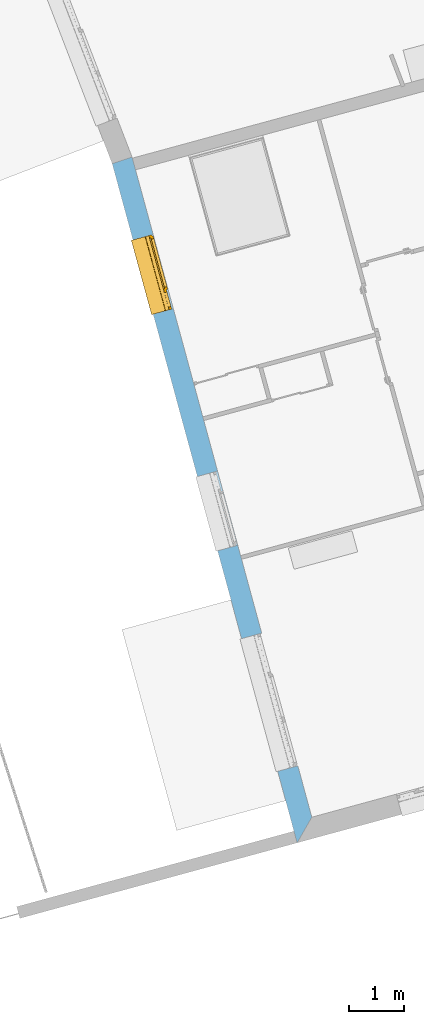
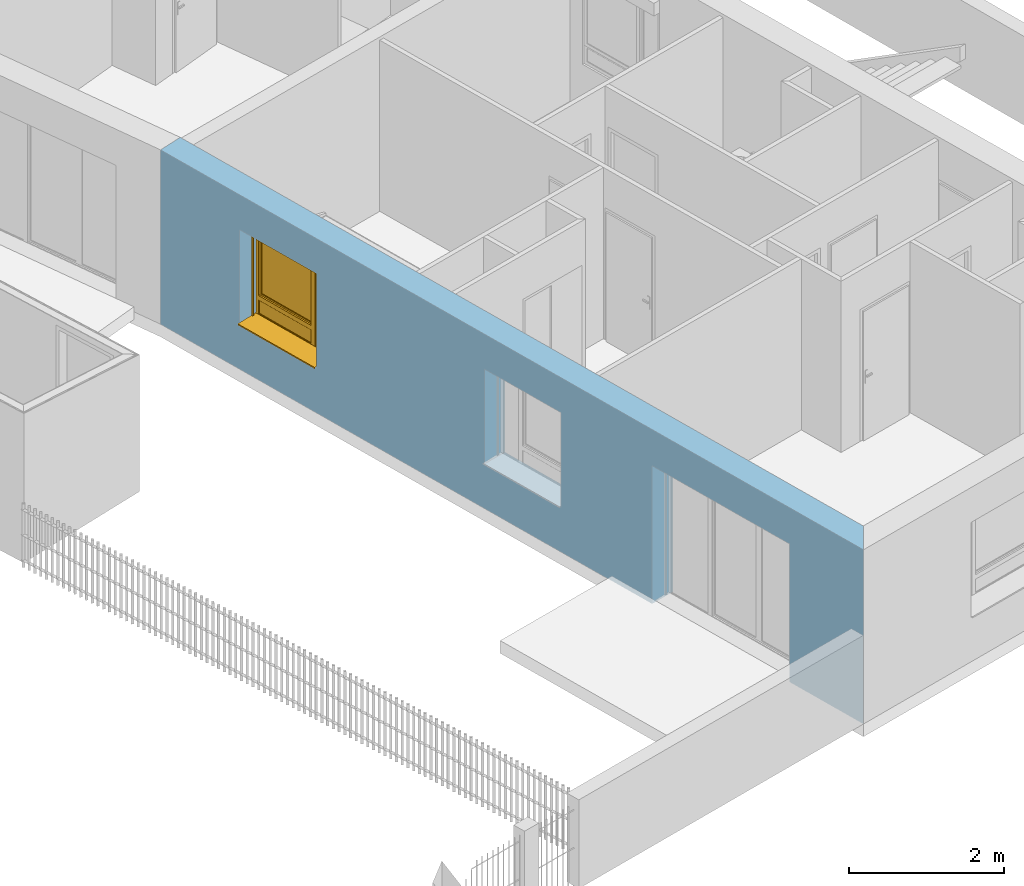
# One storey, part 72 of 195: 1 window, 3 openings, plus 1 element that does not belong to this part.
"""IFC2X3 building model written with IfcOpenShell, lengths in metres."""

from ifc_helpers import new_model, entity, si_unit, converted_unit, derived_unit, money_unit, direction, frame, origin_with_axes, place, context, subcontext, project, spatial, polyline, outline, extrude, open_shell, faceted_brep, surface_model, source, transform, mapped, material, layer, layer_set, layer_usage, type_object, element, fill, save


model = new_model("IFC2X3")

# Units and contexts
model_context = context("Model", 3, precision=1e-05, world=origin_with_axes(), true_north=direction((0.0, 1.0)))
body_context = subcontext(model_context, "Body", "Model", "MODEL_VIEW")
ifc_project = project(units=[si_unit("LENGTHUNIT", "METRE"), si_unit("AREAUNIT", "SQUARE_METRE"), si_unit("VOLUMEUNIT", "CUBIC_METRE"), converted_unit("PLANEANGLEUNIT", "DEGREE", entity("IfcPlaneAngleMeasure", 0.0174532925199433), si_unit("PLANEANGLEUNIT", "RADIAN"), dimensions=[0, 0, 0, 0, 0, 0, 0]), money_unit("CHF"), converted_unit("TIMEUNIT", "Year", entity("IfcTimeMeasure", 31557600.0), si_unit("TIMEUNIT", "SECOND"), dimensions=[0, 0, 1, 0, 0, 0, 0]), si_unit("MASSUNIT", "GRAM", prefix="KILO"), si_unit("THERMODYNAMICTEMPERATUREUNIT", "DEGREE_CELSIUS"), si_unit("LUMINOUSINTENSITYUNIT", "LUMEN"), si_unit("ENERGYUNIT", "JOULE", prefix="MEGA"), derived_unit("THERMALCONDUCTANCEUNIT", [(si_unit("POWERUNIT", "WATT"), 1), (si_unit("LENGTHUNIT", "METRE"), -1), (si_unit("THERMODYNAMICTEMPERATUREUNIT", "KELVIN"), -1)]), derived_unit("SPECIFICHEATCAPACITYUNIT", [(si_unit("ENERGYUNIT", "JOULE"), 1), (si_unit("MASSUNIT", "GRAM", prefix="KILO"), -1), (si_unit("THERMODYNAMICTEMPERATUREUNIT", "KELVIN"), -1)]), derived_unit("MASSDENSITYUNIT", [(si_unit("MASSUNIT", "GRAM", prefix="KILO"), 1), (si_unit("VOLUMEUNIT", "CUBIC_METRE"), -1)])], contexts=[model_context])

# Site, building, storey
site_placement = place(None, origin_with_axes())
site = spatial("IfcSite", under=ifc_project, at=site_placement, Name="Site", CompositionType="ELEMENT")
building_placement = place(site_placement, origin_with_axes())
building = spatial("IfcBuilding", under=site, at=building_placement, Name="Bâtiment", CompositionType="ELEMENT")
storey_placement = place(building_placement, origin_with_axes())
storey = spatial("IfcBuildingStorey", under=building, at=storey_placement, Name="rdc", CompositionType="ELEMENT", Elevation=0.0)

# Wall, openings, window
ifc_material_1 = material(Name="Parpaing 312445824")
ifc_layer_1 = layer(ifc_material_1, 0.22, ventilated="UNKNOWN")
ifc_material_2 = material(Name="Isolant styromousse 301821074")
ifc_layer_2 = layer(ifc_material_2, 0.16, ventilated="UNKNOWN")
ifc_layer_set = layer_set([ifc_layer_1, ifc_layer_2], Name="isol int 22+16 0836643197")
ifc_layer_usage = layer_usage(ifc_layer_set, "AXIS2", "POSITIVE", 0.0)
wall_type = type_object("IfcWallType", Name="isol int 22+16 0836643197 380", PredefinedType="NOTDEFINED")
wall_placement = place(storey_placement, frame((9586.378108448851, -1047.081991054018, 57.7), z_axis=(0.0, 0.0, 1.0), x_axis=(0.2627340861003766, -0.9648682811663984, 0.0)))
wall = element("IfcWallStandardCase", 1, at=wall_placement, inside=storey, type_object=wall_type, material=ifc_layer_usage, Name="Mur-113", context=body_context, shape_type="SweptSolid", body=[
    extrude(outline(polyline([(0.0, 0.0), (12.79727346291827, 0.0), (12.4172734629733, 0.3799999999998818), (-0.0193025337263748, 0.3799999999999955), (0.0, 0.0)])), origin_with_axes(), (0.0, 0.0, 1.0), 2.75),
])
opening_1_placement = place(wall_placement, frame((6.594852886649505, 0.0, 0.7000000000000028), z_axis=(0.0, 0.0, 1.0), x_axis=(1.0, 0.0, 0.0)))
element("IfcOpeningElement", 2, at=opening_1_placement, cuts=wall, Name="Fen-045", context=body_context, shape_type="Brep", body=[
    faceted_brep([(-0.6999999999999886, 0.4800000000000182, 1.5), (0.6999999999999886, 0.4800000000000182, 1.5), (0.6999999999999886, 3.625157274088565, 1.5), (-0.7000000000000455, 3.625157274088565, 1.5), (-0.6999999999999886, 0.4800000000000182, 1.700000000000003), (0.6999999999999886, 0.4800000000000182, 1.700000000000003), (0.6999999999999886, 0.3000000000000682, 1.5), (0.6999999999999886, 0.3000000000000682, 0.0), (0.6999999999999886, 3.625157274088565, 0.0), (-0.7000000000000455, 3.625157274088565, 0.0), (-0.6999999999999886, 0.3000000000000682, 1.5), (-0.6999999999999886, 0.3000000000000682, 0.0), (-0.6999999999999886, 0.2200000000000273, 1.5), (-0.6999999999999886, 0.2200000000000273, 1.700000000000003), (0.6999999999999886, 0.2199999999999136, 1.700000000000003), (0.6999999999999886, 0.2199999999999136, 1.5), (0.6999999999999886, -3.245157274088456, 1.5), (0.6999999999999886, -3.245157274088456, 0.0), (-0.6999999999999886, -3.245157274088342, 0.0), (-0.6999999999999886, -3.245157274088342, 1.5)], [[[0, 1, 2, 3]], [[1, 0, 4, 5]], [[1, 6, 7, 8, 2]], [[2, 8, 9, 3]], [[10, 0, 3, 9, 11]], [[0, 10, 12, 13, 4]], [[4, 13, 14, 5]], [[6, 1, 5, 14, 15]], [[6, 15, 16, 17, 7]], [[7, 11, 9, 8]], [[12, 10, 11, 18, 19]], [[12, 15, 14, 13]], [[15, 12, 19, 16]], [[19, 18, 17, 16]], [[11, 7, 17, 18]]]),
])
opening_2_placement = place(wall_placement, frame((10.19948912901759, 0.0, 0.0), z_axis=(0.0, 0.0, 1.0), x_axis=(1.0, 0.0, 0.0)))
element("IfcOpeningElement", 3, at=opening_2_placement, cuts=wall, Name="Fen-045", context=body_context, shape_type="Brep", body=[
    faceted_brep([(-1.25, 0.4800000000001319, 2.18), (1.25, 0.4800000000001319, 2.18), (1.25, 3.625157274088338, 2.18), (-1.25, 3.625157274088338, 2.18), (-1.25, 0.4800000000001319, 2.380000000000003), (1.25, 0.4800000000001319, 2.380000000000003), (1.25, 0.3000000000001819, 2.18), (1.250000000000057, 0.3000000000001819, 0.0), (1.25, 3.625157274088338, 0.0), (-1.25, 3.625157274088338, 0.0), (-1.25, 0.3000000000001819, 2.18), (-1.249999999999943, 0.3000000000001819, 0.0), (-1.25, 0.2200000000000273, 2.18), (-1.25, 0.2200000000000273, 2.380000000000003), (1.250000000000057, 0.2200000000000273, 2.380000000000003), (1.250000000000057, 0.2200000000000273, 2.18), (1.25, -3.245157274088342, 2.18), (1.25, -3.245157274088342, 0.0), (-1.249999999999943, -3.245157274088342, 0.0), (-1.249999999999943, -3.245157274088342, 2.18)], [[[0, 1, 2, 3]], [[1, 0, 4, 5]], [[1, 6, 7, 8, 2]], [[2, 8, 9, 3]], [[10, 0, 3, 9, 11]], [[0, 10, 12, 13, 4]], [[4, 13, 14, 5]], [[6, 1, 5, 14, 15]], [[6, 15, 16, 17, 7]], [[7, 11, 9, 8]], [[12, 10, 11, 18, 19]], [[12, 15, 14, 13]], [[15, 12, 19, 16]], [[19, 18, 17, 16]], [[11, 7, 17, 18]]]),
])
opening_3_placement = place(wall_placement, frame((2.136258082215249, 0.0, 0.7000000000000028), z_axis=(0.0, 0.0, 1.0), x_axis=(1.0, 0.0, 0.0)))
opening_3 = element("IfcOpeningElement", 4, at=opening_3_placement, cuts=wall, Name="Fen-045", context=body_context, shape_type="Brep", body=[
    faceted_brep([(-0.6999999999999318, 0.4800000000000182, 1.5), (0.7000000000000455, 0.4800000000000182, 1.5), (0.7000000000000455, 3.625157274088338, 1.5), (-0.6999999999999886, 3.625157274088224, 1.5), (-0.6999999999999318, 0.4800000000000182, 1.700000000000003), (0.7000000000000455, 0.4800000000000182, 1.700000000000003), (0.7000000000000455, 0.2999999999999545, 1.5), (0.7000000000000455, 0.2999999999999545, 0.0), (0.7000000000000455, 3.625157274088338, 0.0), (-0.6999999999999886, 3.625157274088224, 0.0), (-0.6999999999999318, 0.2999999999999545, 1.5), (-0.6999999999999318, 0.2999999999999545, 0.0), (-0.6999999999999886, 0.2199999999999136, 1.5), (-0.6999999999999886, 0.2199999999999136, 1.700000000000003), (0.7000000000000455, 0.2199999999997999, 1.700000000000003), (0.7000000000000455, 0.2199999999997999, 1.5), (0.7000000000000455, -3.245157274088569, 1.5), (0.7000000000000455, -3.245157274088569, 0.0), (-0.6999999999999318, -3.245157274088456, 0.0), (-0.6999999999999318, -3.245157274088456, 1.5)], [[[0, 1, 2, 3]], [[1, 0, 4, 5]], [[1, 6, 7, 8, 2]], [[2, 8, 9, 3]], [[10, 0, 3, 9, 11]], [[0, 10, 12, 13, 4]], [[14, 5, 4, 13]], [[6, 1, 5, 14, 15]], [[6, 15, 16, 17, 7]], [[7, 11, 9, 8]], [[12, 10, 11, 18, 19]], [[12, 15, 14, 13]], [[15, 12, 19, 16]], [[19, 18, 17, 16]], [[11, 7, 17, 18]]]),
])
window_style = type_object("IfcWindowStyle", Name="Fenêtre variable 27", ConstructionType="NOTDEFINED", OperationType="TRIPLE_PANEL_RIGHT", ParameterTakesPrecedence=False, Sizeable=False)
shared_shape = source(origin_with_axes(), body_context, "Body", "SurfaceModel", [
    surface_model("IfcShellBasedSurfaceModel", [(-0.7, -0.05100000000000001, 0.05), (-0.7, -0.05100000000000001, 0.04), (0.7, -0.05100000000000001, 0.04000000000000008), (0.7, -0.05100000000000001, 0.05000000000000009), (-0.7, -0.3799999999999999, 0.02899999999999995), (0.7, -0.3799999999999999, 0.02900000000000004), (-0.7, -0.3799999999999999, 0.008999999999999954), (0.7, -0.3799999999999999, 0.00900000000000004), (-0.7, -0.3699999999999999, 0.01899999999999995), (0.7, -0.3699999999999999, 0.01900000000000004)], [open_shell([[[0, 1, 2, 3]], [[1, 4, 5, 2]], [[4, 6, 7, 5]], [[6, 8, 9, 7]]])]),
    faceted_brep([(-0.7, -0.13, 1.7), (-0.697, -0.13, 1.7), (-0.697, 0.13, 1.7), (-0.7, 0.13, 1.7), (-0.7, -0.13, 1.5), (-0.697, -0.13, 1.5), (-0.697, 0.13, 1.5), (-0.7, 0.13, 1.5)], [[[0, 1, 2, 3]], [[4, 5, 1, 0]], [[1, 5, 6, 2]], [[3, 2, 6, 7]], [[0, 3, 7, 4]], [[7, 6, 5, 4]]]),
    faceted_brep([(0.6970000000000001, -0.1299999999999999, 1.7), (0.7000000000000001, -0.1299999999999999, 1.7), (0.7000000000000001, 0.1300000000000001, 1.7), (0.6970000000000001, 0.1300000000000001, 1.7), (0.6970000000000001, -0.1299999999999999, 1.5), (0.7000000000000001, -0.1299999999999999, 1.5), (0.7000000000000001, 0.1300000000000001, 1.5), (0.6970000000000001, 0.1300000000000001, 1.5)], [[[0, 1, 2, 3]], [[4, 5, 1, 0]], [[1, 5, 6, 2]], [[3, 2, 6, 7]], [[0, 3, 7, 4]], [[7, 6, 5, 4]]]),
    faceted_brep([(-0.697, -0.13, 1.5), (0.697, -0.1299999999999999, 1.5), (0.697, -0.1299999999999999, 1.7), (-0.697, -0.13, 1.7), (-0.697, -0.127, 1.5), (0.697, -0.1269999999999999, 1.5), (0.697, -0.1269999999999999, 1.697), (0.697, 0.1270000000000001, 1.697), (0.697, 0.1270000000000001, 1.503), (0.697, -0.1079999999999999, 1.503), (0.697, -0.1079999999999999, 1.5), (0.697, 0.1300000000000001, 1.5), (0.697, 0.1300000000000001, 1.7), (-0.697, 0.13, 1.7), (-0.697, 0.13, 1.5), (-0.697, -0.108, 1.5), (-0.697, -0.108, 1.503), (-0.697, 0.127, 1.503), (-0.697, 0.127, 1.697), (-0.697, -0.127, 1.697)], [[[0, 1, 2, 3]], [[4, 5, 1, 0]], [[1, 5, 6, 7, 8, 9, 10, 11, 12, 2]], [[3, 2, 12, 13]], [[0, 3, 13, 14, 15, 16, 17, 18, 19, 4]], [[19, 6, 5, 4]], [[18, 7, 6, 19]], [[17, 8, 7, 18]], [[16, 9, 8, 17]], [[15, 10, 9, 16]], [[14, 11, 10, 15]], [[13, 12, 11, 14]]]),
    faceted_brep([(-0.694, -0.08075423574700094, 1.585760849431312), (-0.694, -0.08200000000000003, 1.6), (-0.694, -0.0807542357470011, 1.614239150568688), (-0.694, -0.07705479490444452, 1.628045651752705), (-0.694, -0.07101408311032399, 1.641), (-0.694, -0.06281564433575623, 1.652708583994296), (-0.694, -0.05270858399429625, 1.662815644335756), (-0.694, -0.04100000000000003, 1.671014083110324), (-0.694, -0.02804565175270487, 1.677054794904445), (-0.694, -0.01423915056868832, 1.680754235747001), (-0.694, 0.0, 1.682), (-0.694, 0.01423915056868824, 1.680754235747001), (-0.694, 0.02804565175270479, 1.677054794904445), (-0.694, 0.04099999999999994, 1.671014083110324), (-0.694, 0.05270858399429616, 1.662815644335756), (-0.694, 0.06281564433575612, 1.652708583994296), (-0.694, 0.07101408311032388, 1.641), (-0.694, 0.0770547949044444, 1.628045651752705), (-0.694, 0.08075423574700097, 1.614239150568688), (-0.694, 0.0819999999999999, 1.6), (-0.694, 0.08075423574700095, 1.585760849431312), (-0.694, 0.07705479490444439, 1.571954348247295), (-0.694, 0.07101408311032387, 1.559), (-0.694, 0.06281564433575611, 1.547291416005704), (-0.694, 0.05270858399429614, 1.537184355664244), (-0.694, 0.04099999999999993, 1.528985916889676), (-0.694, 0.02804565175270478, 1.522945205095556), (-0.694, 0.01423915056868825, 1.519245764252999), (-0.694, 0.0, 1.518), (-0.694, -0.01423915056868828, 1.519245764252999), (-0.694, -0.02804565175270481, 1.522945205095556), (-0.694, -0.04099999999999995, 1.528985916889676), (-0.694, -0.05270858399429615, 1.537184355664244), (-0.694, -0.06281564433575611, 1.547291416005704), (-0.694, -0.07101408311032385, 1.559), (-0.694, -0.07705479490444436, 1.571954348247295), (0.694, -0.08075423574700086, 1.585760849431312), (0.694, -0.08199999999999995, 1.6), (0.694, -0.08075423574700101, 1.614239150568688), (0.694, -0.07705479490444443, 1.628045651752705), (0.694, -0.07101408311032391, 1.641), (0.694, -0.06281564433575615, 1.652708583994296), (0.694, -0.05270858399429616, 1.662815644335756), (0.694, -0.04099999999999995, 1.671014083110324), (0.694, -0.02804565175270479, 1.677054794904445), (0.694, -0.01423915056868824, 1.680754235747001), (0.694, 0.0, 1.682), (0.694, 0.01423915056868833, 1.680754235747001), (0.694, 0.02804565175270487, 1.677054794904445), (0.694, 0.04100000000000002, 1.671014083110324), (0.694, 0.05270858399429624, 1.662815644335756), (0.694, 0.0628156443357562, 1.652708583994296), (0.694, 0.07101408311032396, 1.641), (0.694, 0.07705479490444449, 1.628045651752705), (0.694, 0.08075423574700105, 1.614239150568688), (0.694, 0.08199999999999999, 1.6), (0.694, 0.08075423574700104, 1.585760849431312), (0.694, 0.07705479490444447, 1.571954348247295), (0.694, 0.07101408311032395, 1.559), (0.694, 0.06281564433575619, 1.547291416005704), (0.694, 0.05270858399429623, 1.537184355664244), (0.694, 0.04100000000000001, 1.528985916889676), (0.694, 0.02804565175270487, 1.522945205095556), (0.694, 0.01423915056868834, 1.519245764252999), (0.694, 0.0, 1.518), (0.694, -0.0142391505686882, 1.519245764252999), (0.694, -0.02804565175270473, 1.522945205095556), (0.694, -0.04099999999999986, 1.528985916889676), (0.694, -0.05270858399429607, 1.537184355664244), (0.694, -0.06281564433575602, 1.547291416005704), (0.694, -0.07101408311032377, 1.559), (0.694, -0.07705479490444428, 1.571954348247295)], [[[0, 1, 2, 3, 4, 5, 6, 7, 8, 9, 10, 11, 12, 13, 14, 15, 16, 17, 18, 19, 20, 21, 22, 23, 24, 25, 26, 27, 28, 29, 30, 31, 32, 33, 34, 35]], [[0, 36, 37, 1]], [[1, 37, 38, 2]], [[2, 38, 39, 3]], [[3, 39, 40, 4]], [[4, 40, 41, 5]], [[5, 41, 42, 6]], [[6, 42, 43, 7]], [[7, 43, 44, 8]], [[8, 44, 45, 9]], [[9, 45, 46, 10]], [[10, 46, 47, 11]], [[11, 47, 48, 12]], [[12, 48, 49, 13]], [[13, 49, 50, 14]], [[14, 50, 51, 15]], [[15, 51, 52, 16]], [[16, 52, 53, 17]], [[17, 53, 54, 18]], [[18, 54, 55, 19]], [[19, 55, 56, 20]], [[20, 56, 57, 21]], [[21, 57, 58, 22]], [[22, 58, 59, 23]], [[23, 59, 60, 24]], [[24, 60, 61, 25]], [[25, 61, 62, 26]], [[26, 62, 63, 27]], [[27, 63, 64, 28]], [[28, 64, 65, 29]], [[29, 65, 66, 30]], [[30, 66, 67, 31]], [[31, 67, 68, 32]], [[32, 68, 69, 33]], [[33, 69, 70, 34]], [[34, 70, 71, 35]], [[35, 71, 36, 0]], [[36, 71, 70, 69, 68, 67, 66, 65, 64, 63, 62, 61, 60, 59, 58, 57, 56, 55, 54, 53, 52, 51, 50, 49, 48, 47, 46, 45, 44, 43, 42, 41, 40, 39, 38, 37]]]),
    faceted_brep([(0.7, -0.105, 0.03), (0.7, -0.1049999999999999, 1.5), (0.7, -0.1299999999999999, 1.5), (0.7, -0.13, 0.03), (0.6749999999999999, -0.105, 0.03), (0.6749999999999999, -0.1049999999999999, 1.5), (0.6749999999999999, -0.1079999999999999, 1.5), (0.697, -0.1079999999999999, 1.5), (0.697, -0.1269999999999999, 1.5), (0.6749999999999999, -0.1269999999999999, 1.5), (0.6749999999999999, -0.1299999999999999, 1.5), (0.6749999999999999, -0.13, 0.03), (0.6749999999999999, -0.127, 0.03), (0.697, -0.127, 0.03), (0.697, -0.108, 0.03), (0.6749999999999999, -0.108, 0.03)], [[[0, 1, 2, 3]], [[4, 5, 1, 0]], [[1, 5, 6, 7, 8, 9, 10, 2]], [[3, 2, 10, 11]], [[0, 3, 11, 12, 13, 14, 15, 4]], [[15, 6, 5, 4]], [[14, 7, 6, 15]], [[13, 8, 7, 14]], [[12, 9, 8, 13]], [[11, 10, 9, 12]]]),
    faceted_brep([(-0.7, -0.105, 0.03), (-0.7, -0.13, 0.03), (-0.7, -0.1299999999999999, 1.5), (-0.7, -0.1049999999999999, 1.5), (-0.6749999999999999, -0.105, 0.03), (-0.6749999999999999, -0.108, 0.03), (-0.697, -0.108, 0.03), (-0.697, -0.127, 0.03), (-0.6749999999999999, -0.127, 0.03), (-0.6749999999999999, -0.13, 0.03), (-0.6749999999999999, -0.1299999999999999, 1.5), (-0.6749999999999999, -0.1269999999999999, 1.5), (-0.697, -0.1269999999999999, 1.5), (-0.697, -0.1079999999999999, 1.5), (-0.6749999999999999, -0.1079999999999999, 1.5), (-0.6749999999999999, -0.1049999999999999, 1.5)], [[[0, 1, 2, 3]], [[0, 4, 5, 6, 7, 8, 9, 1]], [[1, 9, 10, 2]], [[3, 2, 10, 11, 12, 13, 14, 15]], [[4, 0, 3, 15]], [[5, 4, 15, 14]], [[6, 5, 14, 13]], [[7, 6, 13, 12]], [[8, 7, 12, 11]], [[9, 8, 11, 10]]]),
    surface_model("IfcShellBasedSurfaceModel", [(-0.697, -0.115, 1.6), (0.697, -0.1149999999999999, 1.6), (0.697, -0.1199999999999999, 1.6), (-0.697, -0.12, 1.6), (-0.697, -0.115, 1.6), (-0.697, -0.12, 1.6), (0.697, -0.12, 1.6), (0.697, -0.1149999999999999, 1.6)], [open_shell([[[0, 1, 2, 3]], [[4, 5, 6, 7]]])]),
    faceted_brep([(-0.697, -0.115, 1.6), (0.697, -0.1149999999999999, 1.6), (0.697, -0.1166666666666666, 1.583333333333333), (-0.697, -0.1166666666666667, 1.583333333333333), (-0.697, -0.12, 1.6), (0.697, -0.1199999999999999, 1.6), (0.697, -0.1216666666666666, 1.583333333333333), (0.697, -0.1216666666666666, 1.566666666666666), (0.697, -0.1199999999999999, 1.55), (0.697, -0.1149999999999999, 1.55), (0.697, -0.1166666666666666, 1.566666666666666), (-0.697, -0.1166666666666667, 1.566666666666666), (-0.697, -0.115, 1.55), (-0.697, -0.12, 1.55), (-0.697, -0.1216666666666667, 1.566666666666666), (-0.697, -0.1216666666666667, 1.583333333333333)], [[[0, 1, 2, 3]], [[4, 5, 1, 0]], [[1, 5, 6, 7, 8, 9, 10, 2]], [[3, 2, 10, 11]], [[0, 3, 11, 12, 13, 14, 15, 4]], [[15, 6, 5, 4]], [[14, 7, 6, 15]], [[13, 8, 7, 14]], [[12, 9, 8, 13]], [[11, 10, 9, 12]]]),
    faceted_brep([(-0.697, -0.115, 1.55), (0.697, -0.1149999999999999, 1.55), (0.697, -0.1166666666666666, 1.533333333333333), (-0.697, -0.1166666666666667, 1.533333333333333), (-0.697, -0.12, 1.55), (0.697, -0.1199999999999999, 1.55), (0.697, -0.1216666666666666, 1.533333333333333), (0.697, -0.1216666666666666, 1.516666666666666), (0.697, -0.1199999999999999, 1.5), (0.697, -0.1149999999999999, 1.5), (0.697, -0.1166666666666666, 1.516666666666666), (-0.697, -0.1166666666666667, 1.516666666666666), (-0.697, -0.115, 1.5), (-0.697, -0.12, 1.5), (-0.697, -0.1216666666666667, 1.516666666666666), (-0.697, -0.1216666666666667, 1.533333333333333)], [[[0, 1, 2, 3]], [[4, 5, 1, 0]], [[1, 5, 6, 7, 8, 9, 10, 2]], [[3, 2, 10, 11]], [[0, 3, 11, 12, 13, 14, 15, 4]], [[15, 6, 5, 4]], [[14, 7, 6, 15]], [[13, 8, 7, 14]], [[12, 9, 8, 13]], [[11, 10, 9, 12]]]),
    faceted_brep([(-0.6749999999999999, 0.0, 1.45), (-0.7, 0.0, 1.45), (-0.7, -0.05000000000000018, 1.45), (-0.6499999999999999, -0.05000000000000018, 1.45), (-0.6499999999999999, -0.02500000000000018, 1.45), (-0.6749999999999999, -0.02500000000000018, 1.45), (-0.6749999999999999, 0.0, 0.3099999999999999), (-0.6499999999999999, 0.0, 0.3099999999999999), (-0.6499999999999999, 0.0, 0.265), (-0.6499999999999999, 0.0, 0.05000000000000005), (-0.7, 0.0, 0.05000000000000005), (-0.7, -0.05000000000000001, 0.05000000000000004), (-0.6499999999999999, -0.05000000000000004, 0.335), (-0.6499999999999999, -0.05000000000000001, 0.05000000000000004), (-0.6499999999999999, -0.05000000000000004, 0.265), (-0.6499999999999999, -0.02500000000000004, 0.335), (-0.6499999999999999, -0.02500000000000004, 0.3099999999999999), (-0.6749999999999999, -0.02500000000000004, 0.3099999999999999)], [[[0, 1, 2, 3, 4, 5]], [[6, 7, 8, 9, 10, 1, 0]], [[1, 10, 11, 2]], [[12, 3, 2, 11, 13, 14]], [[4, 3, 12, 15]], [[15, 16, 17, 5, 4]], [[5, 17, 6, 0]], [[6, 17, 16, 7]], [[16, 15, 12, 14, 8, 7]], [[9, 8, 14, 13]], [[10, 9, 13, 11]]]),
    faceted_brep([(0.3068894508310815, -0.02500000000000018, 1.45), (0.3068894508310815, -0.05000000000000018, 1.45), (0.3768894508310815, -0.05000000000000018, 1.45), (0.3768894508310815, 0.0, 1.45), (0.3318894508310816, 0.0, 1.45), (0.3318894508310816, -0.02500000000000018, 1.45), (0.3068894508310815, -0.02500000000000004, 0.335), (0.3068894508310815, -0.05000000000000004, 0.335), (0.3068894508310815, -0.05000000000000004, 0.265), (0.3068894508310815, -0.05000000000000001, 0.05000000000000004), (0.3768894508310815, -0.05000000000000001, 0.05000000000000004), (0.3768894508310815, 0.0, 0.05000000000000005), (0.3318894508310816, 0.0, 0.3099999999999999), (0.3068894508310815, 0.0, 0.05000000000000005), (0.3068894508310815, 0.0, 0.265), (0.3068894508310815, 0.0, 0.3099999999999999), (0.3318894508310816, -0.02500000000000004, 0.3099999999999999), (0.3068894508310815, -0.02500000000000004, 0.3099999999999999)], [[[0, 1, 2, 3, 4, 5]], [[6, 7, 1, 0]], [[8, 9, 10, 2, 1, 7]], [[11, 3, 2, 10]], [[12, 4, 3, 11, 13, 14, 15]], [[12, 16, 5, 4]], [[5, 16, 17, 6, 0]], [[17, 15, 14, 8, 7, 6]], [[14, 13, 9, 8]], [[13, 11, 10, 9]], [[15, 17, 16, 12]]]),
    faceted_brep([(-0.6499999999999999, -0.02500000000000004, 0.335), (-0.6499999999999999, -0.05000000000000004, 0.335), (0.3068894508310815, -0.05000000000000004, 0.335), (0.3068894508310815, -0.02500000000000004, 0.335), (-0.6499999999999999, -0.02500000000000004, 0.3099999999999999), (-0.6499999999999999, 0.0, 0.3099999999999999), (-0.6499999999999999, 0.0, 0.265), (-0.6499999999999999, -0.05000000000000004, 0.265), (0.3068894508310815, -0.05000000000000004, 0.265), (0.3068894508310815, -0.02500000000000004, 0.3099999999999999), (0.3068894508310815, 0.0, 0.265), (0.3068894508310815, 0.0, 0.3099999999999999)], [[[0, 1, 2, 3]], [[4, 5, 6, 7, 1, 0]], [[2, 1, 7, 8]], [[9, 3, 2, 8, 10, 11]], [[9, 4, 0, 3]], [[5, 4, 9, 11]], [[11, 10, 6, 5]], [[6, 10, 8, 7]]]),
    faceted_brep([(-0.6749999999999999, 0.0, 1.45), (-0.7, 0.0, 1.45), (-0.7, 0.0, 1.5), (0.7, 0.0, 1.5), (0.7, 0.0, 1.45), (0.6499999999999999, 0.0, 1.45), (0.3768894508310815, 0.0, 1.45), (0.3318894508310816, 0.0, 1.45), (0.3318894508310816, 0.0, 1.475), (-0.6749999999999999, 0.0, 1.475), (-0.6749999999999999, -0.02500000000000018, 1.45), (-0.6499999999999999, -0.02500000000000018, 1.45), (-0.6499999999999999, -0.05000000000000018, 1.45), (-0.7, -0.05000000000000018, 1.45), (-0.7, -0.05000000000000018, 1.5), (0.7, -0.05000000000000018, 1.5), (0.7, -0.05000000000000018, 1.45), (0.6499999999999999, -0.05000000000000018, 1.45), (0.3768894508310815, -0.05000000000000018, 1.45), (0.3318894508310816, -0.02500000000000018, 1.45), (0.3068894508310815, -0.05000000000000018, 1.45), (0.3068894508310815, -0.02500000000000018, 1.45), (0.3318894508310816, -0.02500000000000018, 1.475), (-0.6749999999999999, -0.02500000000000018, 1.475)], [[[0, 1, 2, 3, 4, 5, 6, 7, 8, 9]], [[10, 11, 12, 13, 1, 0]], [[2, 1, 13, 14]], [[3, 2, 14, 15]], [[4, 3, 15, 16]], [[5, 4, 16, 17]], [[6, 5, 17, 18]], [[19, 7, 6, 18, 20, 21]], [[7, 19, 22, 8]], [[8, 22, 23, 9]], [[9, 23, 10, 0]], [[21, 11, 10, 23, 22, 19]], [[21, 20, 12, 11]], [[18, 17, 16, 15, 14, 13, 12, 20]]]),
    faceted_brep([(0.6499999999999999, -0.05000000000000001, 0.05), (0.6499999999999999, 0.0, 0.05000000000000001), (0.7, 0.0, 0.05000000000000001), (0.7, -0.05000000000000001, 0.05), (0.6499999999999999, -0.05000000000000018, 1.45), (0.6499999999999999, 0.0, 1.45), (0.7, 0.0, 1.45), (0.7, -0.05000000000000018, 1.45)], [[[0, 1, 2, 3]], [[4, 5, 1, 0]], [[1, 5, 6, 2]], [[3, 2, 6, 7]], [[0, 3, 7, 4]], [[7, 6, 5, 4]]]),
    faceted_brep([(-0.6499999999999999, -0.05000000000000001, 0.05), (-0.6499999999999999, 0.0, 0.05000000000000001), (-0.7, 0.0, 0.05000000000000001), (-0.7, -0.05000000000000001, 0.05), (0.3068894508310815, -0.05000000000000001, 0.05), (0.3068894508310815, 0.0, 0.05000000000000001), (0.3768894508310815, 0.0, 0.05000000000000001), (0.6499999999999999, 0.0, 0.05000000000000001), (0.7, 0.0, 0.05000000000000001), (0.7, 0.0, 0.0), (-0.7, 0.0, 0.0), (-0.7, -0.05, 0.0), (0.7, -0.05, 0.0), (0.7, -0.05000000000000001, 0.05), (0.6499999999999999, -0.05000000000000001, 0.05), (0.3768894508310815, -0.05000000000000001, 0.05)], [[[0, 1, 2, 3]], [[4, 5, 1, 0]], [[1, 5, 6, 7, 8, 9, 10, 2]], [[3, 2, 10, 11]], [[0, 3, 11, 12, 13, 14, 15, 4]], [[15, 6, 5, 4]], [[14, 7, 6, 15]], [[13, 8, 7, 14]], [[12, 9, 8, 13]], [[11, 10, 9, 12]]]),
    faceted_brep([(-0.625, -0.02500000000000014, 1.425), (-0.625, 0.02499999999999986, 1.425), (-0.6749999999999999, 0.02499999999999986, 1.425), (-0.6749999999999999, -0.02500000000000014, 1.425), (-0.625, -0.02500000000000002, 0.3599999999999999), (-0.625, 0.02499999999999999, 0.3599999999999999), (-0.6749999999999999, 0.02499999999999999, 0.3599999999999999), (-0.6749999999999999, -0.02500000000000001, 0.3599999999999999)], [[[0, 1, 2, 3]], [[4, 5, 1, 0]], [[1, 5, 6, 2]], [[3, 2, 6, 7]], [[0, 3, 7, 4]], [[7, 6, 5, 4]]]),
    faceted_brep([(0.2818894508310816, -0.02500000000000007, 0.3599999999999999), (0.2818894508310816, 0.02499999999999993, 0.3599999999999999), (0.3318894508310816, 0.02499999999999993, 0.3599999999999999), (0.3318894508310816, -0.02500000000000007, 0.3599999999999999), (0.2818894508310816, -0.0250000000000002, 1.425), (0.2818894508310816, 0.0249999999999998, 1.425), (0.3318894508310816, 0.0249999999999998, 1.425), (0.3318894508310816, -0.0250000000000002, 1.425)], [[[0, 1, 2, 3]], [[4, 5, 1, 0]], [[1, 5, 6, 2]], [[3, 2, 6, 7]], [[0, 3, 7, 4]], [[7, 6, 5, 4]]]),
    faceted_brep([(0.3318894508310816, -0.02500000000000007, 0.3099999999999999), (0.3318894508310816, 0.02499999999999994, 0.3099999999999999), (0.3318894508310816, 0.02499999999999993, 0.3599999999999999), (0.3318894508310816, -0.02500000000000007, 0.3599999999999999), (-0.6749999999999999, -0.025, 0.3099999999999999), (-0.6749999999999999, 0.02499999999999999, 0.3099999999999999), (-0.6749999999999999, 0.02499999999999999, 0.3599999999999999), (-0.625, 0.02499999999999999, 0.3599999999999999), (0.2818894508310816, 0.02499999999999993, 0.3599999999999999), (0.2818894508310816, -0.02500000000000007, 0.3599999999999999), (-0.625, -0.02500000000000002, 0.3599999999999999), (-0.6749999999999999, -0.02500000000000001, 0.3599999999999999)], [[[0, 1, 2, 3]], [[4, 5, 1, 0]], [[1, 5, 6, 7, 8, 2]], [[3, 2, 8, 9]], [[0, 3, 9, 10, 11, 4]], [[11, 6, 5, 4]], [[10, 7, 6, 11]], [[9, 8, 7, 10]]]),
    faceted_brep([(-0.6749999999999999, -0.02500000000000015, 1.475), (-0.6749999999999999, 0.02499999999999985, 1.475), (-0.6749999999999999, 0.02499999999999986, 1.425), (-0.6749999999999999, -0.02500000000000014, 1.425), (0.3318894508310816, -0.02500000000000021, 1.475), (0.3318894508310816, 0.02499999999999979, 1.475), (0.3318894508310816, 0.0249999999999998, 1.425), (0.2818894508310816, 0.0249999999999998, 1.425), (-0.625, 0.02499999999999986, 1.425), (-0.625, -0.02500000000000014, 1.425), (0.2818894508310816, -0.0250000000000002, 1.425), (0.3318894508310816, -0.0250000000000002, 1.425)], [[[0, 1, 2, 3]], [[4, 5, 1, 0]], [[1, 5, 6, 7, 8, 2]], [[3, 2, 8, 9]], [[0, 3, 9, 10, 11, 4]], [[11, 6, 5, 4]], [[10, 7, 6, 11]], [[9, 8, 7, 10]]]),
    surface_model("IfcShellBasedSurfaceModel", [(-0.625, -0.01000000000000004, 0.3599999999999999), (0.2818894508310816, -0.01000000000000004, 0.3599999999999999), (0.2818894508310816, -0.01000000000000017, 1.425), (-0.625, -0.01000000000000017, 1.425)], [open_shell([[[0, 1, 2, 3]]])]),
    surface_model("IfcShellBasedSurfaceModel", [(-0.625, 0.009999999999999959, 0.3599999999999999), (-0.625, 0.00999999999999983, 1.425), (0.2818894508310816, 0.00999999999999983, 1.425), (0.2818894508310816, 0.009999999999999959, 0.3599999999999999)], [open_shell([[[0, 1, 2, 3]]])]),
    surface_model("IfcShellBasedSurfaceModel", [(0.3768894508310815, -0.035, 0.05), (0.65, -0.035, 0.05), (0.65, -0.03500000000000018, 1.45), (0.3768894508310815, -0.03500000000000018, 1.45)], [open_shell([[[0, 1, 2, 3]]])]),
    surface_model("IfcShellBasedSurfaceModel", [(0.3768894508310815, -0.015, 0.05), (0.3768894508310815, -0.01500000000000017, 1.45), (0.65, -0.01500000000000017, 1.45), (0.65, -0.015, 0.05)], [open_shell([[[0, 1, 2, 3]]])]),
    surface_model("IfcShellBasedSurfaceModel", [(-0.6499999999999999, -0.035, 0.05), (0.3068894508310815, -0.035, 0.05), (0.3068894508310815, -0.03500000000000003, 0.265), (-0.6499999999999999, -0.03500000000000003, 0.265)], [open_shell([[[0, 1, 2, 3]]])]),
    surface_model("IfcShellBasedSurfaceModel", [(-0.6499999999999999, -0.015, 0.05), (-0.6499999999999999, -0.01500000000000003, 0.265), (0.3068894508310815, -0.01500000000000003, 0.265), (0.3068894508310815, -0.015, 0.05)], [open_shell([[[0, 1, 2, 3]]])]),
])
window_placement = place(opening_3_placement, frame((-0.6999999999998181, 0.0, 0.0), z_axis=(0.0, 0.0, 1.0), x_axis=(1.0, 0.0, 0.0)))
window = element("IfcWindow", 5, at=window_placement, inside=storey, type_object=window_style, Name="Fen-045", OverallHeight=1.5, OverallWidth=1.4, context=body_context, shape_type="MappedRepresentation", body=[
    mapped(shared_shape, transform((0.7000000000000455, 0.3500000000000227, 0.0))),
])
fill(opening_3, window)

save(model, "model.ifc")
